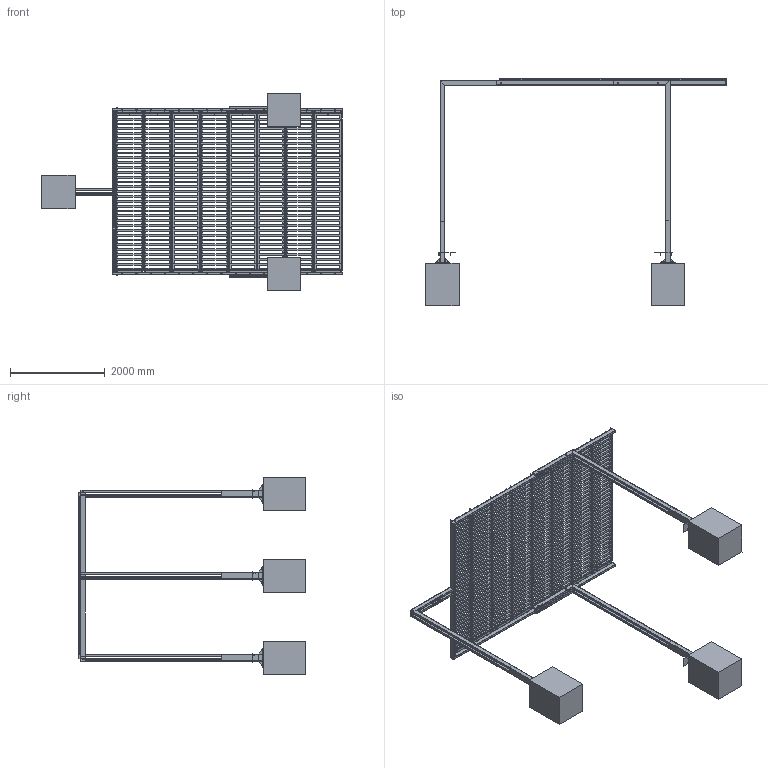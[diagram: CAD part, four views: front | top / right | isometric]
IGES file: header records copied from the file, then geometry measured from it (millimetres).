
Start section: SolidWorks IGES file using analytic representation for surfaces
Global section: file name: C:\SANTACOLE_PDM\Proyectos Catálogo\PROD-P07-016 -- VIA LACTEA\6_Técnico comercial\3D WEB\Pergola Via Láctea sin luz.IGS; native system: SolidWorks 2013; preprocessor: SolidWorks 2013; author: jordi.munoz; date: 150504.170035; units: millimetre
Bounding box: 6349.5 x 4816.37 x 4170 mm (x, y, z)
Volume: 1691199409.4 mm3; surface area: 79534048.8 mm2
Topology: 351 solids, 351 shells, 6747 faces, 16800 edges, 10910 vertices
Faces by surface type: plane 3643, revolution 3104
